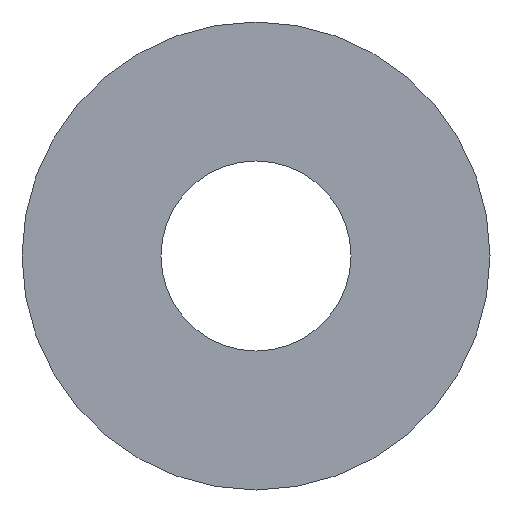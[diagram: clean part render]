
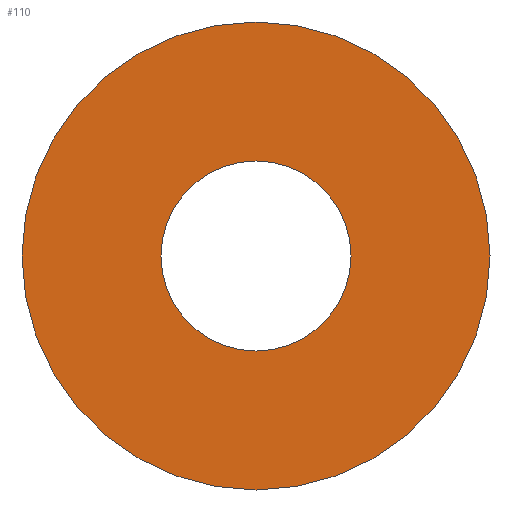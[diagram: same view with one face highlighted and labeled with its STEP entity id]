
A CAD part, front view. The second image highlights one B-rep face of the part: STEP entity #110.
In plain terms, the highlighted planar face has unit normal (0, -1, 0).
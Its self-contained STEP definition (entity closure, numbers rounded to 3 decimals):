
#4 = EDGE_CURVE ( 'NONE', #133, #88, #235, .T. ) ;
#8 = AXIS2_PLACEMENT_3D ( 'NONE', #32, #108, #132 ) ;
#17 = AXIS2_PLACEMENT_3D ( 'NONE', #175, #140, #58 ) ;
#18 = PLANE ( 'NONE',  #129 ) ;
#19 = DIRECTION ( 'NONE',  ( 0., 1., 0. ) ) ;
#23 = DIRECTION ( 'NONE',  ( 0., 0., 1. ) ) ;
#32 = CARTESIAN_POINT ( 'NONE',  ( 0., 0., 0. ) ) ;
#38 = CARTESIAN_POINT ( 'NONE',  ( 0., 0., -106. ) ) ;
#43 = CIRCLE ( 'NONE', #179, 261. ) ;
#44 = FACE_OUTER_BOUND ( 'NONE', #90, .T. ) ;
#51 = ORIENTED_EDGE ( 'NONE', *, *, #192, .T. ) ;
#58 = DIRECTION ( 'NONE',  ( 0., 0., 1. ) ) ;
#72 = EDGE_LOOP ( 'NONE', ( #51, #152 ) ) ;
#78 = DIRECTION ( 'NONE',  ( 0., 0., 1. ) ) ;
#86 = EDGE_CURVE ( 'NONE', #88, #133, #43, .T. ) ;
#88 = VERTEX_POINT ( 'NONE', #94 ) ;
#90 = EDGE_LOOP ( 'NONE', ( #112, #170 ) ) ;
#94 = CARTESIAN_POINT ( 'NONE',  ( 0., 0., 261. ) ) ;
#97 = CARTESIAN_POINT ( 'NONE',  ( 0., 0., 0. ) ) ;
#108 = DIRECTION ( 'NONE',  ( 0., 1., 0. ) ) ;
#110 = ADVANCED_FACE ( 'NONE', ( #44, #117 ), #18, .F. ) ;
#112 = ORIENTED_EDGE ( 'NONE', *, *, #4, .F. ) ;
#115 = CARTESIAN_POINT ( 'NONE',  ( 0., 0., 0. ) ) ;
#117 = FACE_BOUND ( 'NONE', #72, .T. ) ;
#129 = AXIS2_PLACEMENT_3D ( 'NONE', #115, #19, #23 ) ;
#132 = DIRECTION ( 'NONE',  ( 0., 0., 1. ) ) ;
#133 = VERTEX_POINT ( 'NONE', #174 ) ;
#134 = CARTESIAN_POINT ( 'NONE',  ( 0., 0., 0. ) ) ;
#139 = EDGE_CURVE ( 'NONE', #221, #227, #151, .T. ) ;
#140 = DIRECTION ( 'NONE',  ( 0., 1., 0. ) ) ;
#151 = CIRCLE ( 'NONE', #155, 106. ) ;
#152 = ORIENTED_EDGE ( 'NONE', *, *, #139, .T. ) ;
#155 = AXIS2_PLACEMENT_3D ( 'NONE', #97, #189, #78 ) ;
#170 = ORIENTED_EDGE ( 'NONE', *, *, #86, .F. ) ;
#174 = CARTESIAN_POINT ( 'NONE',  ( 0., 0., -261. ) ) ;
#175 = CARTESIAN_POINT ( 'NONE',  ( 0., 0., 0. ) ) ;
#179 = AXIS2_PLACEMENT_3D ( 'NONE', #134, #212, #194 ) ;
#189 = DIRECTION ( 'NONE',  ( 0., 1., 0. ) ) ;
#192 = EDGE_CURVE ( 'NONE', #227, #221, #203, .T. ) ;
#194 = DIRECTION ( 'NONE',  ( 0., 0., 1. ) ) ;
#203 = CIRCLE ( 'NONE', #17, 106. ) ;
#208 = CARTESIAN_POINT ( 'NONE',  ( 0., 0., 106. ) ) ;
#212 = DIRECTION ( 'NONE',  ( 0., 1., 0. ) ) ;
#221 = VERTEX_POINT ( 'NONE', #208 ) ;
#227 = VERTEX_POINT ( 'NONE', #38 ) ;
#235 = CIRCLE ( 'NONE', #8, 261. ) ;
